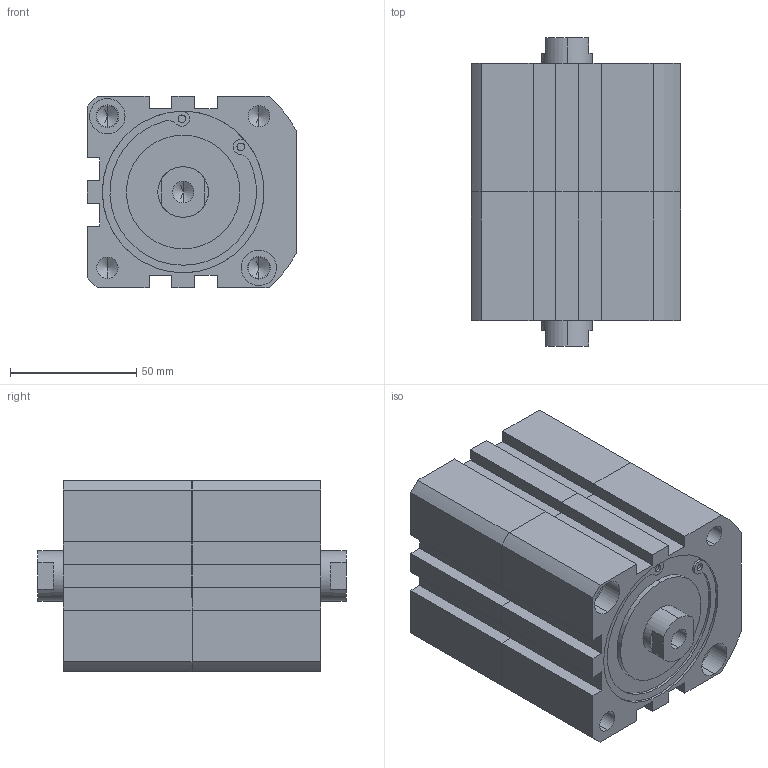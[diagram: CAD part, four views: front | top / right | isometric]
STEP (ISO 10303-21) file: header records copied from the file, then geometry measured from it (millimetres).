
FILE_DESCRIPTION (( 'STEP AP203' ), '1' );
FILE_NAME ('XCD7-63-10-10(L).STEP', '2016-08-05T01:40:39', ( '' ), ( '' ), 'SwSTEP 2.0', 'SolidWorks 2014', '' );
FILE_SCHEMA (( 'CONFIG_CONTROL_DESIGN' ));
Length unit declared in the file: millimetre
Products named in the file (2): XCD7-63-10-10(L); XCD7(L)-63-10
Assembly tree (2 placements, depth 2):
  XCD7-63-10-10(L)
    XCD7(L)-63-10  x2
Bounding box: 83 x 122 x 76 mm (x, y, z)
Volume: 559890.2 mm3; surface area: 78009.8 mm2
Topology: 2 solids, 2 shells, 224 faces, 566 edges, 354 vertices
Faces by surface type: cylinder 96, plane 92, cone 36
Entity records: 3523 total; most frequent: DIRECTION 613, CARTESIAN_POINT 563, ORIENTED_EDGE 538, EDGE_CURVE 269, AXIS2_PLACEMENT_3D 227, VERTEX_POINT 177, VECTOR 159, LINE 159
